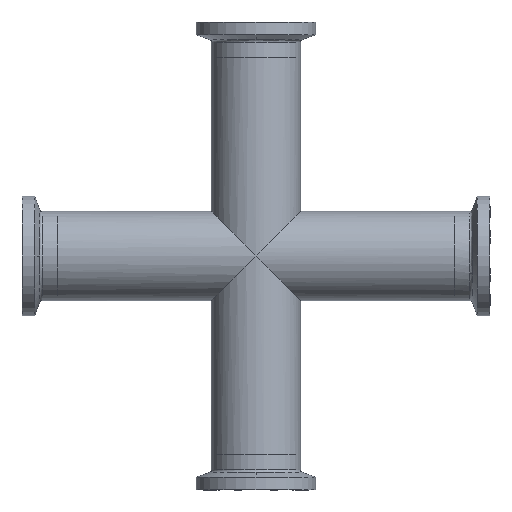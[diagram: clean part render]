
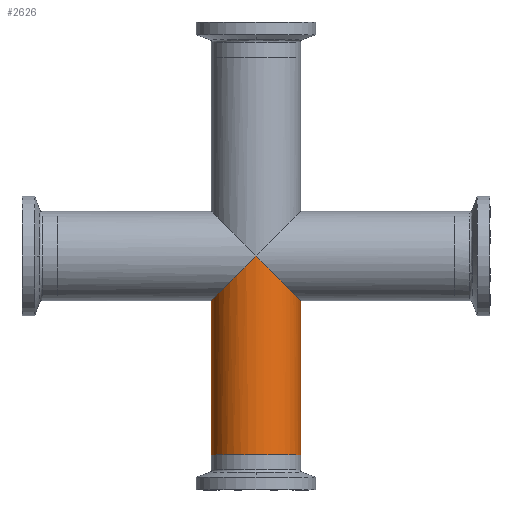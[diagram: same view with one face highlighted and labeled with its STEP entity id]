
A CAD part, front view. The second image highlights one B-rep face of the part: STEP entity #2626.
In plain terms, the highlighted cylindrical face has radius 12.7 mm (diameter 25.4 mm), a partial arc.
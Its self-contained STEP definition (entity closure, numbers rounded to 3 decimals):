
#111 = AXIS2_PLACEMENT_3D ( 'NONE', #1708, #3702, #1990 ) ;
#254 = CARTESIAN_POINT ( 'NONE',  ( -12.7, 0., -56.675 ) ) ;
#259 = CARTESIAN_POINT ( 'NONE',  ( 0., -12.7, 0. ) ) ;
#335 = VERTEX_POINT ( 'NONE', #254 ) ;
#389 = CIRCLE ( 'NONE', #111, 12.7 ) ;
#440 = CARTESIAN_POINT ( 'NONE',  ( 12.7, -7.439, -12.7 ) ) ;
#474 = VERTEX_POINT ( 'NONE', #1661 ) ;
#731 = CARTESIAN_POINT ( 'NONE',  ( 0., -12.7, 0. ) ) ;
#1006 = EDGE_CURVE ( 'NONE', #2657, #1023, #2231, .T. ) ;
#1023 = VERTEX_POINT ( 'NONE', #2828 ) ;
#1115 = DIRECTION ( 'NONE',  ( 0., 0., 1. ) ) ;
#1260 = ORIENTED_EDGE ( 'NONE', *, *, #2346, .F. ) ;
#1393 = ORIENTED_EDGE ( 'NONE', *, *, #1006, .T. ) ;
#1488 = CARTESIAN_POINT ( 'NONE',  ( -12.7, 0., -56.675 ) ) ;
#1661 = CARTESIAN_POINT ( 'NONE',  ( 12.7, 0., -56.675 ) ) ;
#1668 = CYLINDRICAL_SURFACE ( 'NONE', #3545, 12.7 ) ;
#1680 = CARTESIAN_POINT ( 'NONE',  ( 0., 0., -56.675 ) ) ;
#1708 = CARTESIAN_POINT ( 'NONE',  ( 0., 0., -56.675 ) ) ;
#1818 = ORIENTED_EDGE ( 'NONE', *, *, #2820, .T. ) ;
#1830 = EDGE_CURVE ( 'NONE', #335, #474, #389, .T. ) ;
#1913 = EDGE_LOOP ( 'NONE', ( #1260, #2989, #1818, #2169, #1393 ) ) ;
#1990 = DIRECTION ( 'NONE',  ( 1., 0., 0. ) ) ;
#2137 = LINE ( 'NONE', #3433, #2893 ) ;
#2169 = ORIENTED_EDGE ( 'NONE', *, *, #3543, .T. ) ;
#2231 =( BOUNDED_CURVE ( )  B_SPLINE_CURVE ( 3, ( #2853, #3170, #3190, #3185 ),
 .UNSPECIFIED., .F., .F. ) 
 B_SPLINE_CURVE_WITH_KNOTS ( ( 4, 4 ),
 ( 1.571, 3.142 ),
 .UNSPECIFIED. ) 
 CURVE ( )  GEOMETRIC_REPRESENTATION_ITEM ( )  RATIONAL_B_SPLINE_CURVE ( ( 1., 0.805, 0.805, 1. ) ) 
 REPRESENTATION_ITEM ( '' )  );
#2346 = EDGE_CURVE ( 'NONE', #335, #1023, #3682, .T. ) ;
#2439 = CARTESIAN_POINT ( 'NONE',  ( 7.439, -12.7, -7.439 ) ) ;
#2580 = VERTEX_POINT ( 'NONE', #3628 ) ;
#2626 = ADVANCED_FACE ( 'NONE', ( #3250 ), #1668, .T. ) ;
#2657 = VERTEX_POINT ( 'NONE', #259 ) ;
#2820 = EDGE_CURVE ( 'NONE', #474, #2580, #2137, .T. ) ;
#2828 = CARTESIAN_POINT ( 'NONE',  ( -12.7, 0., -12.7 ) ) ;
#2853 = CARTESIAN_POINT ( 'NONE',  ( 0., -12.7, 0. ) ) ;
#2893 = VECTOR ( 'NONE', #3722, 1000. ) ;
#2977 = CARTESIAN_POINT ( 'NONE',  ( 12.7, 0., -12.7 ) ) ;
#2989 = ORIENTED_EDGE ( 'NONE', *, *, #1830, .T. ) ;
#3169 = DIRECTION ( 'NONE',  ( 0., 0., 1. ) ) ;
#3170 = CARTESIAN_POINT ( 'NONE',  ( -7.439, -12.7, -7.439 ) ) ;
#3171 =( BOUNDED_CURVE ( )  B_SPLINE_CURVE ( 3, ( #2977, #440, #2439, #731 ),
 .UNSPECIFIED., .F., .F. ) 
 B_SPLINE_CURVE_WITH_KNOTS ( ( 4, 4 ),
 ( 3.142, 4.712 ),
 .UNSPECIFIED. ) 
 CURVE ( )  GEOMETRIC_REPRESENTATION_ITEM ( )  RATIONAL_B_SPLINE_CURVE ( ( 1., 0.805, 0.805, 1. ) ) 
 REPRESENTATION_ITEM ( '' )  );
#3185 = CARTESIAN_POINT ( 'NONE',  ( -12.7, 0., -12.7 ) ) ;
#3190 = CARTESIAN_POINT ( 'NONE',  ( -12.7, -7.439, -12.7 ) ) ;
#3250 = FACE_OUTER_BOUND ( 'NONE', #1913, .T. ) ;
#3377 = DIRECTION ( 'NONE',  ( 1., 0., 0. ) ) ;
#3433 = CARTESIAN_POINT ( 'NONE',  ( 12.7, 0., -56.675 ) ) ;
#3543 = EDGE_CURVE ( 'NONE', #2580, #2657, #3171, .T. ) ;
#3545 = AXIS2_PLACEMENT_3D ( 'NONE', #1680, #1115, #3377 ) ;
#3578 = VECTOR ( 'NONE', #3169, 1000. ) ;
#3628 = CARTESIAN_POINT ( 'NONE',  ( 12.7, 0., -12.7 ) ) ;
#3682 = LINE ( 'NONE', #1488, #3578 ) ;
#3702 = DIRECTION ( 'NONE',  ( 0., 0., 1. ) ) ;
#3722 = DIRECTION ( 'NONE',  ( 0., 0., 1. ) ) ;
